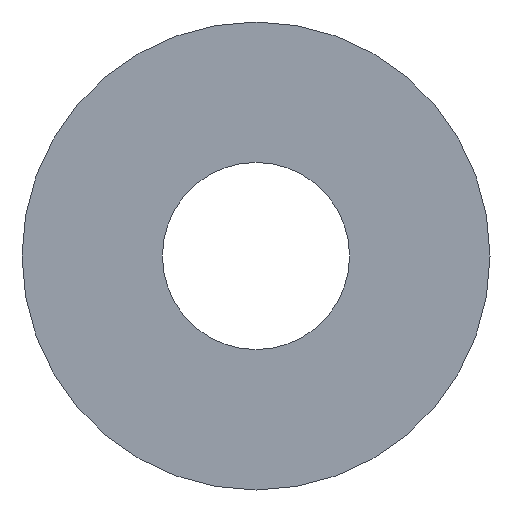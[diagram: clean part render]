
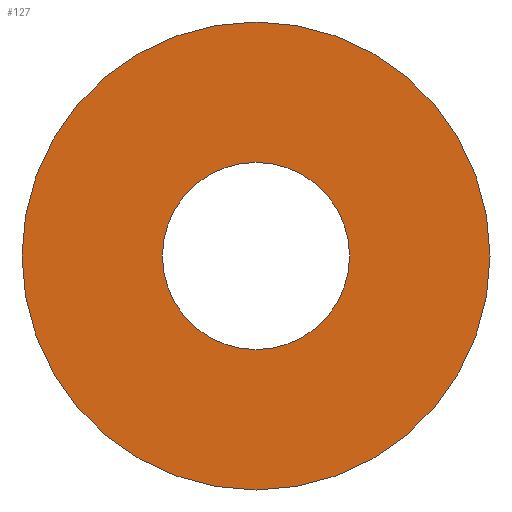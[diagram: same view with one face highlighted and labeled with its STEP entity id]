
A CAD part, front view. The second image highlights one B-rep face of the part: STEP entity #127.
In plain terms, the highlighted planar face has unit normal (0, -1, 0).
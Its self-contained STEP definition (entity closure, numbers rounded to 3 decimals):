
#2=CARTESIAN_POINT('',(0.,0.,0.));
#3=DIRECTION('',(0.,1.,0.));
#4=DIRECTION('',(1.,0.,0.));
#5=AXIS2_PLACEMENT_3D('',#2,#3,#4);
#7=CARTESIAN_POINT('',(0.,0.,0.));
#8=DIRECTION('',(0.,1.,0.));
#9=DIRECTION('',(-1.,0.,0.));
#10=AXIS2_PLACEMENT_3D('',#7,#8,#9);
#12=CARTESIAN_POINT('',(0.,0.,0.));
#13=DIRECTION('',(0.,-1.,0.));
#14=DIRECTION('',(-1.,0.,0.));
#15=AXIS2_PLACEMENT_3D('',#12,#13,#14);
#17=CARTESIAN_POINT('',(0.,0.,0.));
#18=DIRECTION('',(0.,-1.,0.));
#19=DIRECTION('',(1.,0.,0.));
#20=AXIS2_PLACEMENT_3D('',#17,#18,#19);
#94=CARTESIAN_POINT('',(2.5,0.,0.));
#95=CARTESIAN_POINT('',(-2.5,0.,0.));
#96=VERTEX_POINT('',#94);
#97=VERTEX_POINT('',#95);
#102=CARTESIAN_POINT('',(-1.,0.,0.));
#103=CARTESIAN_POINT('',(1.,0.,0.));
#104=VERTEX_POINT('',#102);
#105=VERTEX_POINT('',#103);
#110=CARTESIAN_POINT('',(0.,0.,0.));
#111=DIRECTION('',(0.,1.,0.));
#112=DIRECTION('',(1.,0.,0.));
#113=AXIS2_PLACEMENT_3D('',#110,#111,#112);
#114=PLANE('',#113);
#116=ORIENTED_EDGE('',*,*,#115,.T.);
#118=ORIENTED_EDGE('',*,*,#117,.T.);
#119=EDGE_LOOP('',(#116,#118));
#120=FACE_OUTER_BOUND('',#119,.F.);
#122=ORIENTED_EDGE('',*,*,#121,.T.);
#124=ORIENTED_EDGE('',*,*,#123,.T.);
#125=EDGE_LOOP('',(#122,#124));
#126=FACE_BOUND('',#125,.F.);
#127=ADVANCED_FACE('',(#120,#126),#114,.F.);
#6=CIRCLE('',#5,2.5);
#11=CIRCLE('',#10,2.5);
#16=CIRCLE('',#15,1.);
#21=CIRCLE('',#20,1.);
#115=EDGE_CURVE('',#96,#97,#6,.T.);
#117=EDGE_CURVE('',#97,#96,#11,.T.);
#121=EDGE_CURVE('',#104,#105,#16,.T.);
#123=EDGE_CURVE('',#105,#104,#21,.T.);
